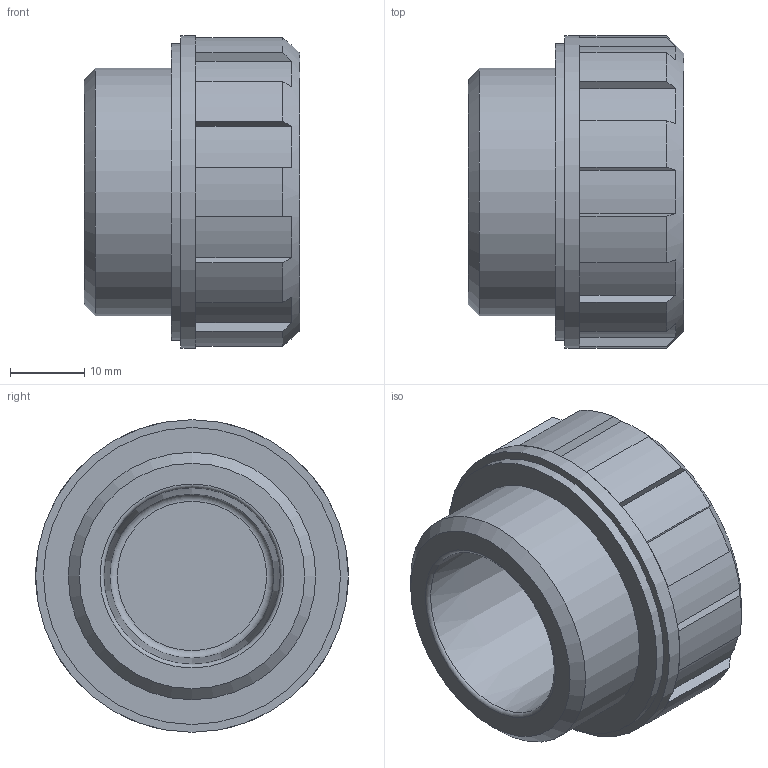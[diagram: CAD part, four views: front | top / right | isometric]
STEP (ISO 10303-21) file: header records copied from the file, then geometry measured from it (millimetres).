
FILE_DESCRIPTION( ( 'STEP AP203' ), '1' );
FILE_NAME( 'C:/Temp/Ganter_Step_05_03_2020/data/3_5/gn548_1/Plug GN 548.1-G1-A.stp', '2020-03-12T13:35:44', ( 'License CC BY-ND 4.0' ), ( 'CADENAS' ), ' ', 'PARTsolutions', ' ' );
FILE_SCHEMA( ( 'CONFIG_CONTROL_DESIGN' ) );
Length unit declared in the file: millimetre
Products named in the file (1): _Plug GN 548.1-G1-A
Bounding box: 29 x 42 x 42 mm (x, y, z)
Volume: 22314 mm3; surface area: 8261.3 mm2
Topology: 1 solids, 1 shells, 56 faces, 144 edges, 95 vertices
Faces by surface type: plane 27, cylinder 24, cone 3, torus 2
Full cylindrical faces by diameter (mm): 33.249 x1, 38.182 x1, 39.9 x1, 42 x1
Entity records: 1728 total; most frequent: CARTESIAN_POINT 345, DIRECTION 282, ORIENTED_EDGE 268, EDGE_CURVE 134, AXIS2_PLACEMENT_3D 111, VERTEX_POINT 94, EDGE_LOOP 70, FACE_OUTER_BOUND 62
